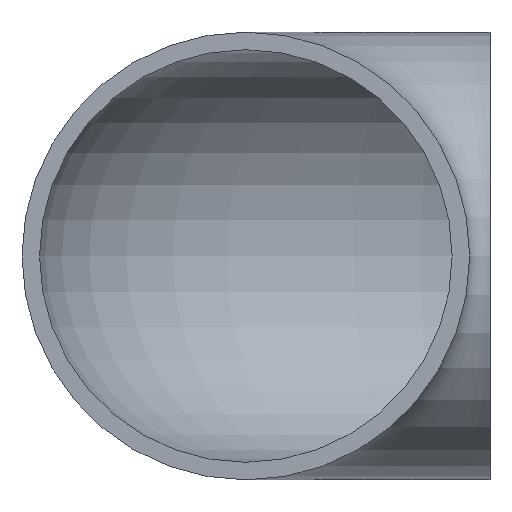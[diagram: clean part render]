
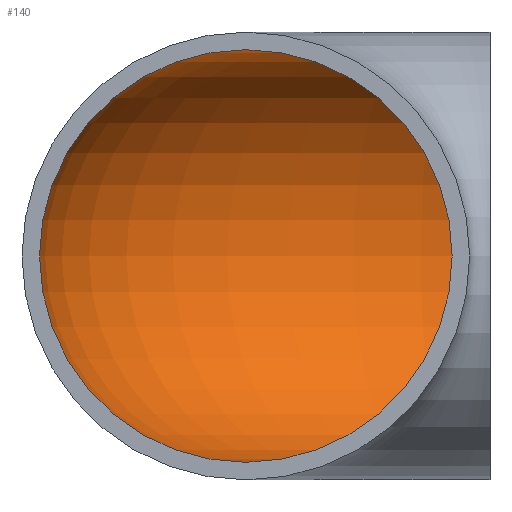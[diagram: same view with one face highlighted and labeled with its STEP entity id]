
A CAD part, front view. The second image highlights one B-rep face of the part: STEP entity #140.
In plain terms, the highlighted toroidal (fillet/blend) face has major radius 60 mm and minor radius 50.7 mm.
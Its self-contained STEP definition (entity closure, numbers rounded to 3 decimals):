
#12=TOROIDAL_SURFACE($,#160,60.,50.7);
#25=FACE_BOUND($,#64,.T.);
#39=CIRCLE($,#161,50.7);
#40=CIRCLE($,#162,50.7);
#49=FACE_OUTER_BOUND($,#63,.T.);
#63=EDGE_LOOP($,(#108));
#64=EDGE_LOOP($,(#109));
#82=VERTEX_POINT($,#276);
#83=VERTEX_POINT($,#278);
#93=EDGE_CURVE($,#82,#82,#39,.T.);
#94=EDGE_CURVE($,#83,#83,#40,.T.);
#108=ORIENTED_EDGE($,*,*,#93,.T.);
#109=ORIENTED_EDGE($,*,*,#94,.F.);
#140=ADVANCED_FACE($,(#49,#25),#12,.F.);
#160=AXIS2_PLACEMENT_3D($,#275,#195,#196);
#161=AXIS2_PLACEMENT_3D($,#277,#197,#198);
#162=AXIS2_PLACEMENT_3D($,#279,#199,#200);
#195=DIRECTION('center_axis',(0.,0.,-1.));
#196=DIRECTION('ref_axis',(-1.,0.,0.));
#197=DIRECTION('center_axis',(0.,-1.,0.));
#198=DIRECTION('ref_axis',(1.,0.,0.));
#199=DIRECTION('center_axis',(-1.,0.,0.));
#200=DIRECTION('ref_axis',(0.,1.,0.));
#275=CARTESIAN_POINT('Origin',(60.,240.,0.));
#276=CARTESIAN_POINT('',(-50.7,240.,0.));
#277=CARTESIAN_POINT('Origin',(0.,240.,0.));
#278=CARTESIAN_POINT('',(60.,350.7,0.));
#279=CARTESIAN_POINT('Origin',(60.,300.,0.));
